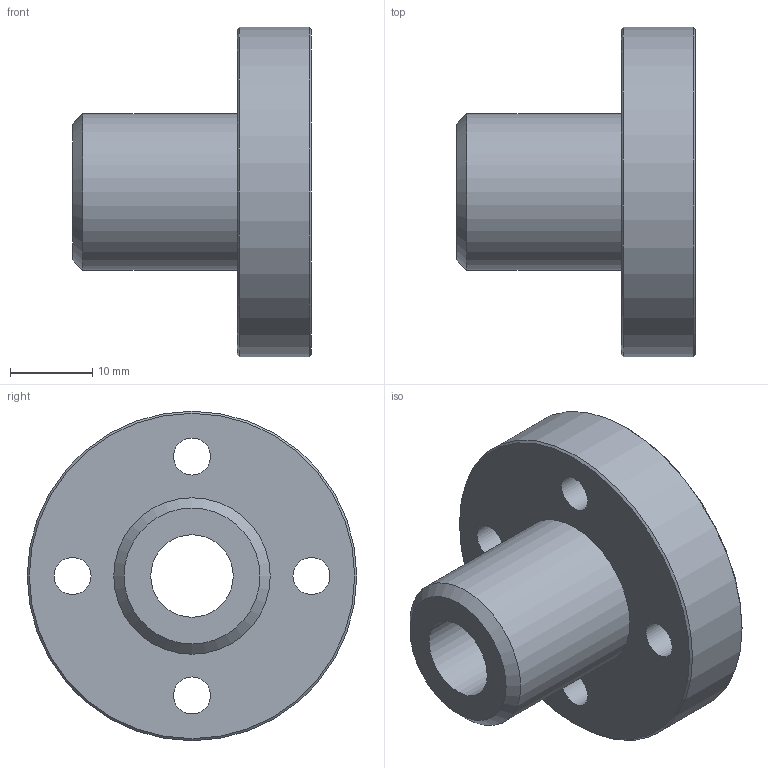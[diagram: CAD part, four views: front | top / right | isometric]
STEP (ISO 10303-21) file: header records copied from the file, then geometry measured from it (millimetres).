
FILE_DESCRIPTION(('STEP AP203'),'1');
FILE_NAME('//192.168.1.1/share/s-4 技術開発/s-4-4_CAD/s-4-4-3_見直し済み/PBC LINEAR修正済み/3D途中/SFPJ/SFPJR/SFPJR10.step','2022-03-24T06:33:36',(' '),(' '),'Spatial InterOp 3D',' ',' ');
FILE_SCHEMA(('CONFIG_CONTROL_DESIGN'));
Length unit declared in the file: millimetre
Products named in the file (1): 1
Bounding box: 29 x 40 x 40 mm (x, y, z)
Volume: 13613.7 mm3; surface area: 6045 mm2
Topology: 1 solids, 1 shells, 21 faces, 44 edges, 30 vertices
Faces by surface type: cylinder 11, plane 7, cone 3
Full cylindrical faces by diameter (mm): 4.5 x4, 7.5 x4, 10 x1, 19 x1, 40 x1
Entity records: 528 total; most frequent: DIRECTION 94, CARTESIAN_POINT 72, EDGE_LOOP 50, ORIENTED_EDGE 50, AXIS2_PLACEMENT_3D 47, FACE_OUTER_BOUND 32, EDGE_CURVE 25, VERTEX_POINT 25
